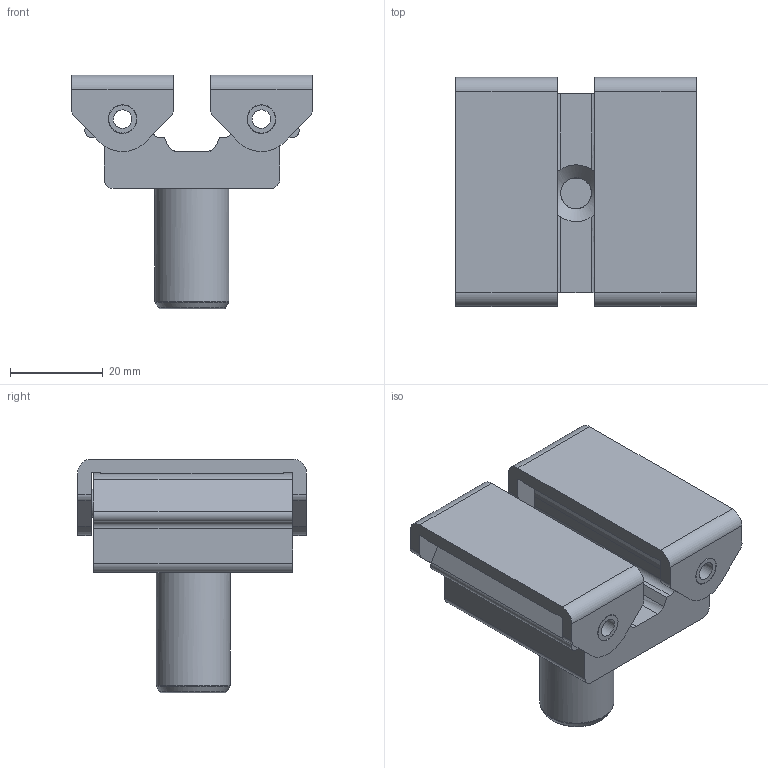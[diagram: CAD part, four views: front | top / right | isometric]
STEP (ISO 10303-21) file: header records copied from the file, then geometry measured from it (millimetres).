
FILE_DESCRIPTION( ('This file contains a STEP AP42 implementation' ,'as created by ZW3D STEP Interface translator.') ,'2;1' );
FILE_NAME( 'TW16VAD.stp' ,'15 311.144844', (''), ('ZWCAD Software Co.'), 'Version 1.0', 'ZW3D to STEP translator', '' );
FILE_SCHEMA( ('CONFIG_CONTROL_DESIGN') );
Length unit declared in the file: millimetre
Products named in the file (8): 0; TW16VAD; TWVAD; 3101653a_Brücke TW kpl; 3003151b_VAD_Brücke; 3003153_VAD_Brücke_kpl_Druckkap; 3003165_Spannstift6x16_8750; 3009018a_Steckbolzen TW16
Assembly tree (9 placements, depth 4):
  0
  TW16VAD
    TWVAD
      3101653a_Brücke TW kpl
        3003151b_VAD_Brücke
        3003153_VAD_Brücke_kpl_Druckkap
        3003165_Spannstift6x16_8750  x4
    3009018a_Steckbolzen TW16
Bounding box: 52 x 49.5 x 50.5 mm (x, y, z)
Volume: 38403.3 mm3; surface area: 20775.7 mm2
Topology: 8 solids, 9 shells, 126 faces, 319 edges, 209 vertices
Faces by surface type: bspline 126
Entity records: 5151 total; most frequent: CARTESIAN_POINT 3067, ORIENTED_EDGE 603, EDGE_CURVE 301, VERTEX_POINT 197, B_SPLINE_CURVE_WITH_KNOTS 187, EDGE_LOOP 131, FACE_OUTER_BOUND 114, ADVANCED_FACE 114
